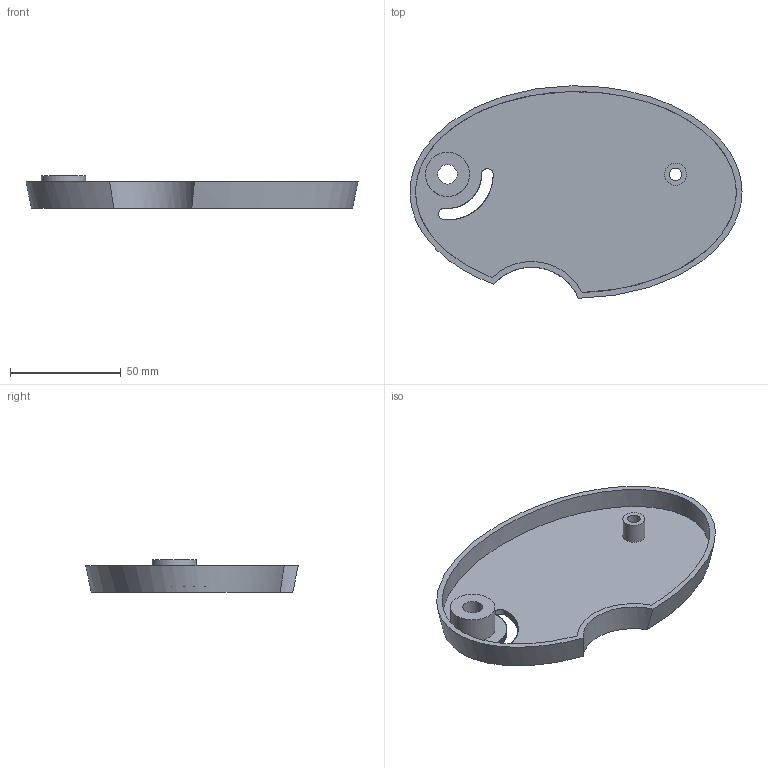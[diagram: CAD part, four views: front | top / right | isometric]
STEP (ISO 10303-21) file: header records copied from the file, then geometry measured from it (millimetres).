
FILE_DESCRIPTION(('Open CASCADE Model'),'2;1');
FILE_NAME('Open CASCADE Shape Model','2026-09-13T15:28:55',('Author'),( 'Open CASCADE'),'Open CASCADE STEP processor 7.9','build123d', 'Unknown');
FILE_SCHEMA(('AUTOMOTIVE_DESIGN { 1 0 10303 214 1 1 1 1 }'));
Length unit declared in the file: millimetre
Products named in the file (2): =>[0:1:1:2]; COMPOUND
Assembly tree (1 placements, depth 2):
  =>[0:1:1:2]
    COMPOUND
Bounding box: 149.95 x 95.98 x 14.7 mm (x, y, z)
Volume: 35684.7 mm3; surface area: 30782.7 mm2
Topology: 1 solids, 1 shells, 205 faces, 603 edges, 403 vertices
Faces by surface type: cylinder 198, plane 5, bspline 1, extrusion 1
Full cylindrical faces by diameter (mm): 5.6 x1, 8.8 x1, 10 x1, 20 x1
Entity records: 15191 total; most frequent: CARTESIAN_POINT 3458, DIRECTION 2219, ORIENTED_EDGE 1206, PCURVE 1206, DEFINITIONAL_REPRESENTATION 1206, CIRCLE 792, AXIS2_PLACEMENT_3D 608, EDGE_CURVE 603
